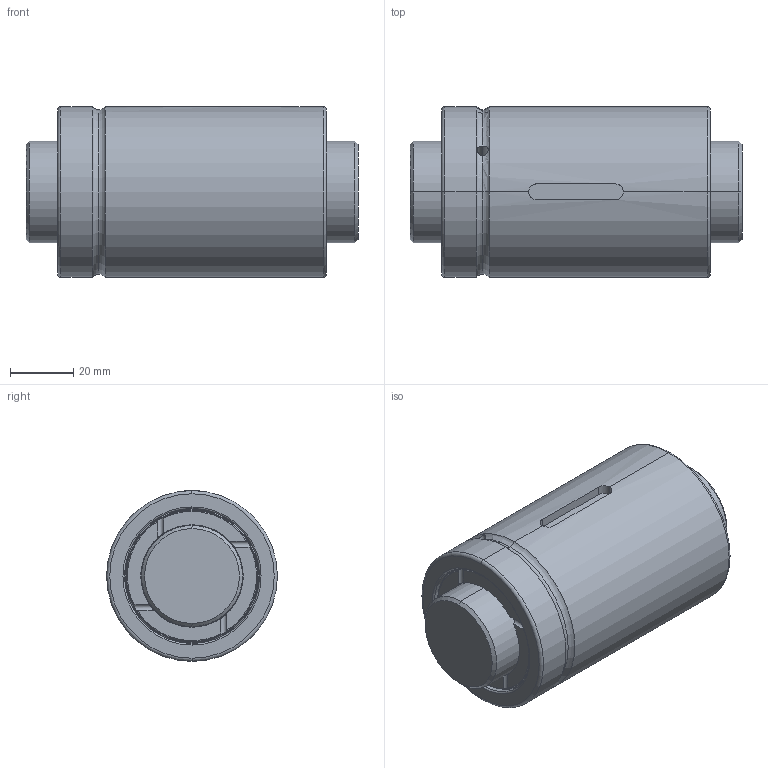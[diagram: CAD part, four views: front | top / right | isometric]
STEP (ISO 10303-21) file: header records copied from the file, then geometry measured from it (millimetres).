
FILE_DESCRIPTION (( 'STEP AP203' ), '1' );
FILE_NAME ('SCIR03210T4-C.STEP', '2020-06-17T07:38:57', ( '' ), ( '' ), 'SwSTEP 2.0', 'SolidWorks 2013', '' );
FILE_SCHEMA (( 'CONFIG_CONTROL_DESIGN' ));
Length unit declared in the file: millimetre
Products named in the file (1): SCIR03210T4-C
Bounding box: 105 x 54 x 54 mm (x, y, z)
Volume: 195148 mm3; surface area: 43139.5 mm2
Topology: 2 solids, 2 shells, 98 faces, 232 edges, 143 vertices
Faces by surface type: cylinder 43, torus 30, plane 21, cone 4
Entity records: 3673 total; most frequent: CARTESIAN_POINT 1344, DIRECTION 492, ORIENTED_EDGE 464, EDGE_CURVE 232, AXIS2_PLACEMENT_3D 219, VERTEX_POINT 143, CIRCLE 120, EDGE_LOOP 107
